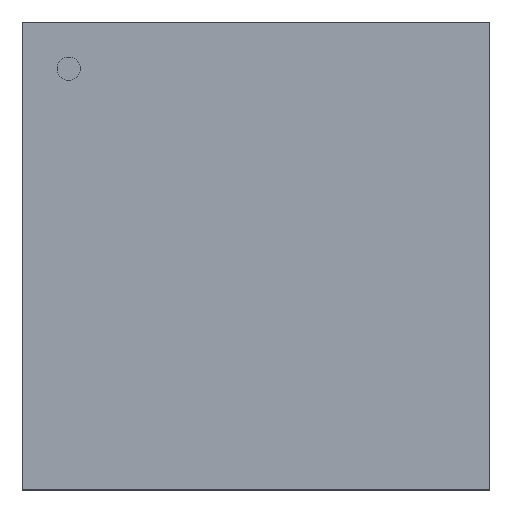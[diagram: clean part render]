
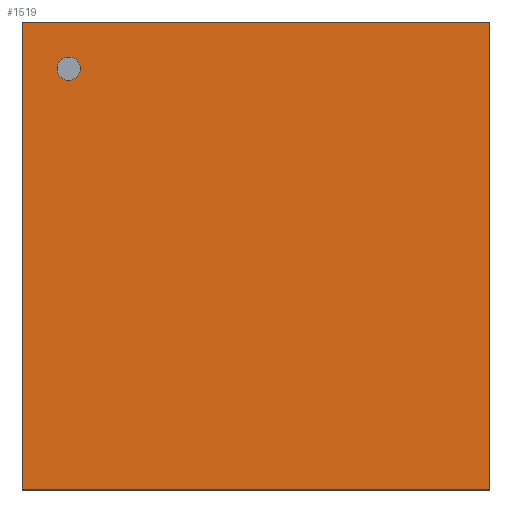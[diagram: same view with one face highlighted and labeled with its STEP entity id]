
A CAD part, top view. The second image highlights one B-rep face of the part: STEP entity #1519.
In plain terms, the highlighted planar face has unit normal (0, 0, 1).
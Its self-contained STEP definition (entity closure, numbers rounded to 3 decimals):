
#1295=CARTESIAN_POINT('',(2.121,-2.121,0.533));
#1294=VERTEX_POINT('',#1295);
#1305=CARTESIAN_POINT('',(-2.121,-2.121,0.533));
#1304=VERTEX_POINT('',#1305);
#1303=EDGE_CURVE('',#1304,#1294,#1308,.T.);
#1308=LINE('',#1305,#1310);
#1310=VECTOR('',#1311,4.242);
#1311=DIRECTION('',(1.0,0.0,0.0));
#1344=CARTESIAN_POINT('',(2.121,2.121,0.533));
#1343=VERTEX_POINT('',#1344);
#1352=EDGE_CURVE('',#1294,#1343,#1357,.T.);
#1357=LINE('',#1295,#1359);
#1359=VECTOR('',#1360,4.242);
#1360=DIRECTION('',(0.0,1.0,0.0));
#1393=CARTESIAN_POINT('',(-2.121,2.121,0.533));
#1392=VERTEX_POINT('',#1393);
#1401=EDGE_CURVE('',#1343,#1392,#1406,.T.);
#1406=LINE('',#1344,#1408);
#1408=VECTOR('',#1409,4.242);
#1409=DIRECTION('',(-1.0,0.0,0.0));
#1450=EDGE_CURVE('',#1392,#1304,#1455,.T.);
#1455=LINE('',#1393,#1457);
#1457=VECTOR('',#1458,4.242);
#1458=DIRECTION('',(0.0,-1.0,0.0));
#1519=ADVANCED_FACE('',(#1525),#1520,.T.);
#1520=PLANE('',#1521);
#1521=AXIS2_PLACEMENT_3D('',#1522,#1523,#1524);
#1522=CARTESIAN_POINT('',(-2.121,-2.121,0.533));
#1523=DIRECTION('',(0.0,0.0,1.0));
#1524=DIRECTION('',(0.,1.,0.));
#1525=FACE_OUTER_BOUND('',#1526,.T.);
#1526=EDGE_LOOP('',(#1527,#1537,#1547,#1557));
#1527=ORIENTED_EDGE('',*,*,#1303,.T.);
#1537=ORIENTED_EDGE('',*,*,#1352,.T.);
#1547=ORIENTED_EDGE('',*,*,#1401,.T.);
#1557=ORIENTED_EDGE('',*,*,#1450,.T.);
